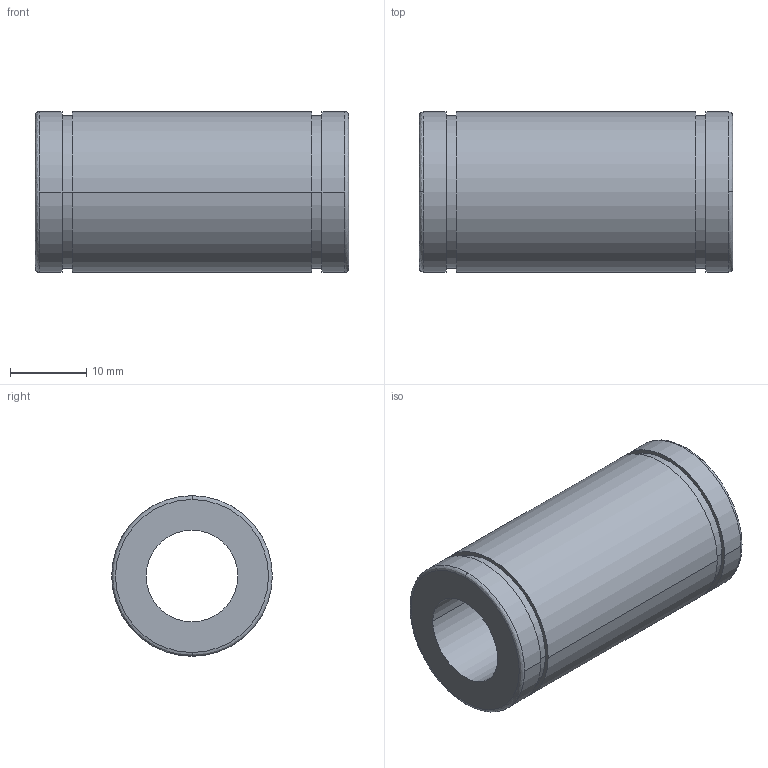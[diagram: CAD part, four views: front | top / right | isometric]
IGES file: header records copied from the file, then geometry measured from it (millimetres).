
Start section: 3D InterOp IGES (Version 21 0 1), Spatial Corp. Copyright (c) 1999-2007.
Global section: file name: N-12VM.igs; native system: Spatial Corp.; preprocessor: 3D InterOp GENERIC/IGES 3.0; author: Noname; organization: Noname; date: 20220516.092738; units: millimetre
Bounding box: 41 x 21 x 21 mm (x, y, z)
Surface area: 4808.9 mm2 (no closed solid volume)
Topology: 0 solids, 0 shells, 22 faces, 100 edges, 100 vertices
Faces by surface type: revolution 16, extrusion 6
